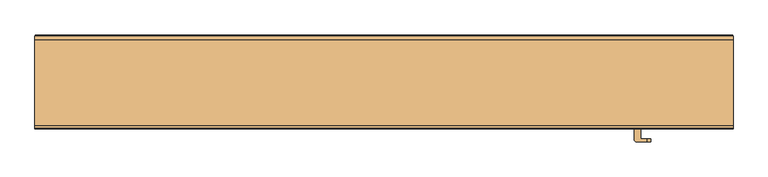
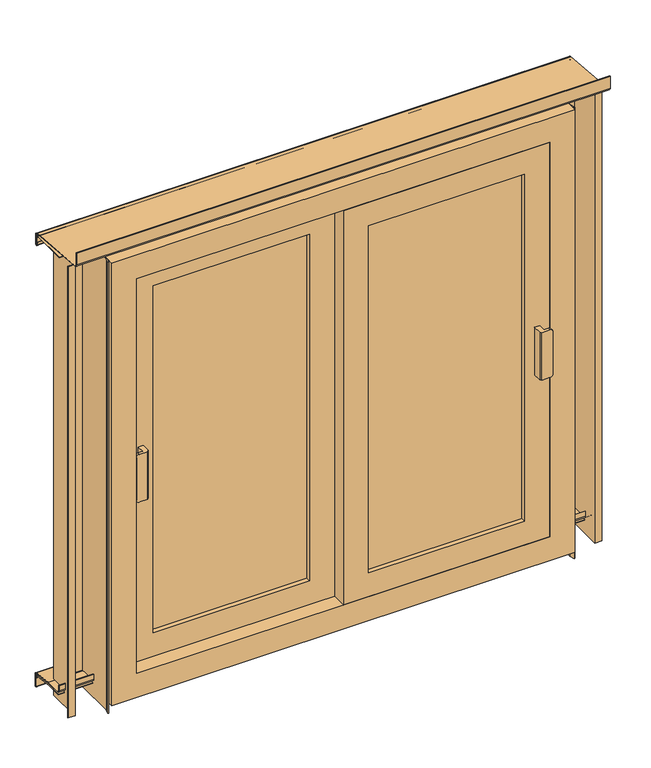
"""IFC4 building model written with IfcOpenShell, lengths in millimetres: door geometry, Fenetre pour Tenda Horizontal : Fenetre pour Tenda H."""

import ifcopenshell
import ifcopenshell.guid

model = None  # the IFC model being written
_history = None  # IfcOwnerHistory: only IFC2X3 demands one
_inside = {}  # id of a spatial element -> (the spatial element, [elements in it])
_under = {}  # id of a project, library or spatial element -> (it, [spatial elements below it])
_declared = {}  # id of a project -> (the project, [libraries it declares])
_typed = {}  # id of a type object -> (the type object, [elements of that type])
_made_of = {}  # id of a material, layer set ... -> (it, [elements and type objects made of it])


def new_model(schema):
    """Start an empty IFC model of exactly this schema.

    Asked for "IFC4X3", IfcOpenShell would pick the latest addendum, in which some entities
    have other attributes; the version numbers below select the first issue.
    IFC2X3 requires an IfcOwnerHistory on every rooted entity: one is made here for all.
    """
    global model, _history
    if schema == "IFC4X3":
        model = ifcopenshell.file(schema_version=(4, 3, 0, 0))
    else:
        model = ifcopenshell.file(schema=schema)
    _inside.clear()
    _under.clear()
    _declared.clear()
    _typed.clear()
    _made_of.clear()
    _history = None
    if model.schema == "IFC2X3":
        org = make("IfcOrganization", Name="unknown")
        user = make(
            "IfcPersonAndOrganization",
            ThePerson=make("IfcPerson", FamilyName="unknown"),
            TheOrganization=org,
        )
        app = make(
            "IfcApplication",
            ApplicationDeveloper=org,
            Version="unknown",
            ApplicationFullName="unknown",
            ApplicationIdentifier="unknown",
        )
        _history = make(
            "IfcOwnerHistory",
            OwningUser=user,
            OwningApplication=app,
            ChangeAction="ADDED",
            CreationDate=0,
        )
    return model


def make(cls, **values):
    """One entity of the class cls with the attributes given. An attribute that is None is left unset."""
    return model.create_entity(
        cls, **{name: value for name, value in values.items() if value is not None}
    )


def rooted(cls, **values):
    """An entity with a GlobalId (a new one), such as an element, a storey or a relation."""
    return make(cls, GlobalId=ifcopenshell.guid.new(), OwnerHistory=_history, **values)


def si_unit(unit_type, name, prefix=None):
    """IfcSIUnit, for example si_unit("LENGTHUNIT", "METRE", prefix="MILLI")."""
    return make("IfcSIUnit", UnitType=unit_type, Prefix=prefix, Name=name)


def assignment(units):
    """IfcUnitAssignment: the units of a project."""
    return None if units is None else make("IfcUnitAssignment", Units=units)


def point(xyz):
    """IfcCartesianPoint."""
    return None if xyz is None else make("IfcCartesianPoint", Coordinates=xyz)


def direction(xyz):
    """IfcDirection."""
    return None if xyz is None else make("IfcDirection", DirectionRatios=xyz)


def frame(location, z_axis=None, x_axis=None):
    """IfcAxis2Placement3D, a coordinate frame: its origin and axes. An axis left out is left unset."""
    return make(
        "IfcAxis2Placement3D",
        Location=point(location),
        Axis=direction(z_axis),
        RefDirection=direction(x_axis),
    )


def frame_2d(location, x_axis=None):
    """IfcAxis2Placement2D, a coordinate frame in the plane: its origin and x axis."""
    return make(
        "IfcAxis2Placement2D", Location=point(location), RefDirection=direction(x_axis)
    )


def origin():
    """The frame at (0, 0, 0) with its axes left unset."""
    return frame((0.0, 0.0, 0.0))


def place(relative_to, where):
    """IfcLocalPlacement: puts the frame where relative to a parent placement (None: the world)."""
    return make(
        "IfcLocalPlacement", PlacementRelTo=relative_to, RelativePlacement=where
    )


def context(
    kind, dimensions, precision=None, world=None, true_north=None, identifier=None
):
    """IfcGeometricRepresentationContext, for example the 3D "Model" context."""
    return make(
        "IfcGeometricRepresentationContext",
        ContextIdentifier=identifier,
        ContextType=kind,
        CoordinateSpaceDimension=dimensions,
        Precision=precision,
        WorldCoordinateSystem=world,
        TrueNorth=true_north,
    )


def project(units=None, contexts=None):
    """IfcProject with its units and contexts."""
    return rooted(
        "IfcProject",
        Name="project",
        RepresentationContexts=contexts,
        UnitsInContext=assignment(units),
    )


def spatial(cls, under=None, at=None, **own):
    """A site, building, storey or space (cls), placed at a placement, below another one or the project."""
    s = rooted(cls, ObjectPlacement=at, **own)
    if under is not None:
        _under.setdefault(under.id(), (under, []))[1].append(s)
    return s


def polyline(points):
    """IfcPolyline through the points."""
    return make("IfcPolyline", Points=[point(p) for p in points])


def circle_curve(where, radius):
    """IfcCircle in the frame where."""
    return make("IfcCircle", Position=where, Radius=radius)


def trimmed(basis, trim1, trim2, sense, master):
    """IfcTrimmedCurve: the piece of a basis curve between two trims."""
    return make(
        "IfcTrimmedCurve",
        BasisCurve=basis,
        Trim1=trim1,
        Trim2=trim2,
        SenseAgreement=sense,
        MasterRepresentation=master,
    )


def segment(curve, same_sense, transition):
    """IfcCompositeCurveSegment."""
    return make(
        "IfcCompositeCurveSegment",
        Transition=transition,
        SameSense=same_sense,
        ParentCurve=curve,
    )


def composite_curve(segments, self_intersect=None):
    """IfcCompositeCurve: segments joined end to end."""
    return make("IfcCompositeCurve", Segments=segments, SelfIntersect=self_intersect)


def outline(outer, holes=None, kind="AREA"):
    """IfcArbitraryClosedProfileDef: a profile drawn as a closed curve; with holes, ...WithVoids."""
    if holes is None:
        return make("IfcArbitraryClosedProfileDef", ProfileType=kind, OuterCurve=outer)
    return make(
        "IfcArbitraryProfileDefWithVoids",
        ProfileType=kind,
        OuterCurve=outer,
        InnerCurves=holes,
    )


def extrude(swept, where, along, depth):
    """IfcExtrudedAreaSolid: the profile swept, set in the frame where, extruded along a direction by depth."""
    return make(
        "IfcExtrudedAreaSolid",
        SweptArea=swept,
        Position=where,
        ExtrudedDirection=direction(along),
        Depth=depth,
    )


def faces_of(points, faces, orient=None, outer=None):
    """IfcFace entities. A face is a list of loops; a loop is a list of indices into points, from 0.

    orient and outer hold one flag for each loop. By default every Orientation is true, the
    first loop of a face is its IfcFaceOuterBound and the others are IfcFaceBound.
    """
    made = []
    for i, loops in enumerate(faces):
        bounds = []
        for j, loop in enumerate(loops):
            is_outer = j == 0 if outer is None else outer[i][j]
            bounds.append(
                make(
                    "IfcFaceOuterBound" if is_outer else "IfcFaceBound",
                    Bound=make("IfcPolyLoop", Polygon=[points[k] for k in loop]),
                    Orientation=True if orient is None else orient[i][j],
                )
            )
        made.append(make("IfcFace", Bounds=bounds))
    return made


def faceted_brep(points, faces, orient=None, outer=None, voids=None):
    """IfcFacetedBrep: a solid bounded by flat faces; with voids (closed shells), ...WithVoids."""
    shared = [point(p) for p in points]
    hull = make("IfcClosedShell", CfsFaces=faces_of(shared, faces, orient, outer))
    if voids is None:
        return make("IfcFacetedBrep", Outer=hull)
    return make(
        "IfcFacetedBrepWithVoids",
        Outer=hull,
        Voids=[
            make(cls, CfsFaces=faces_of(shared, fs, o, b)) for cls, fs, o, b in voids
        ],
    )


def shape(context_of_items, identifier, shape_type, items):
    """IfcShapeRepresentation: the items that make up one representation, for example the "Body"."""
    return make(
        "IfcShapeRepresentation",
        ContextOfItems=context_of_items,
        RepresentationIdentifier=identifier,
        RepresentationType=shape_type,
        Items=items,
    )


def source(mapping_origin, context_of_items, identifier, shape_type, items):
    """IfcRepresentationMap: a shape defined once, which mapped items show again and again."""
    return make(
        "IfcRepresentationMap",
        MappingOrigin=mapping_origin,
        MappedRepresentation=shape(context_of_items, identifier, shape_type, items),
    )


def transform(
    local_origin,
    x_axis=None,
    y_axis=None,
    z_axis=None,
    scale=None,
    scale2=None,
    scale3=None,
    uniform=True,
):
    """IfcCartesianTransformationOperator3D, or its non-uniform kind. x_axis, y_axis, z_axis: its Axis1, 2, 3."""
    if uniform:
        return make(
            "IfcCartesianTransformationOperator3D",
            Axis1=direction(x_axis),
            Axis2=direction(y_axis),
            LocalOrigin=point(local_origin),
            Scale=scale,
            Axis3=direction(z_axis),
        )
    return make(
        "IfcCartesianTransformationOperator3DnonUniform",
        Axis1=direction(x_axis),
        Axis2=direction(y_axis),
        LocalOrigin=point(local_origin),
        Scale=scale,
        Axis3=direction(z_axis),
        Scale2=scale2,
        Scale3=scale3,
    )


def mapped(mapping_source, mapping_target):
    """IfcMappedItem: shows the shape of a source again, moved by a transform."""
    return make(
        "IfcMappedItem", MappingSource=mapping_source, MappingTarget=mapping_target
    )


def made_of(thing, what):
    """Note that an element or type object is made of a material, layer set ...; save() writes the relation."""
    if what is not None:
        _made_of.setdefault(what.id(), (what, []))[1].append(thing)
    return thing


def element(
    cls,
    number,
    at=None,
    inside=None,
    cuts=None,
    type_object=None,
    material=None,
    context=None,
    identifier="Body",
    shape_type=None,
    held_by="IfcProductDefinitionShape",
    body=None,
    shapes=None,
    **own,
):
    """One element of the class cls, such as IfcWall. Its Tag is "e" and its number.

    at: its placement. inside: the storey or other place that contains it. cuts: it is an
    opening in that element (IfcRelVoidsElement). A single representation is given by context,
    identifier, shape_type and body (its items); several are given by shapes. held_by: the class
    of the entity that holds the representations. save() writes the other relations.
    """
    e = rooted(cls, Tag="e%d" % number, ObjectPlacement=at, **own)
    if body is not None:
        shapes = [shape(context, identifier, shape_type, body)]
    if shapes is not None:
        e.Representation = make(held_by, Representations=shapes)
    if inside is not None:
        _inside.setdefault(inside.id(), (inside, []))[1].append(e)
    if cuts is not None:
        rooted(
            "IfcRelVoidsElement", RelatingBuildingElement=cuts, RelatedOpeningElement=e
        )
    if type_object is not None:
        _typed.setdefault(type_object.id(), (type_object, []))[1].append(e)
    return made_of(e, material)


def aggregate(whole, parts):
    """IfcRelAggregates: a whole, such as a stair, and the parts it consists of."""
    return rooted("IfcRelAggregates", RelatingObject=whole, RelatedObjects=parts)


def save(model, path):
    """Write the relations noted so far, then the file.

    IfcRelAggregates (storeys below a building ...), IfcRelContainedInSpatialStructure (elements
    in a storey), IfcRelDefinesByType, IfcRelAssociatesMaterial and IfcRelDeclares: one each for
    every whole, place, type object, material and project.
    """
    for whole, parts in _under.values():
        aggregate(whole, parts)
    for where, things in _inside.values():
        rooted(
            "IfcRelContainedInSpatialStructure",
            RelatedElements=things,
            RelatingStructure=where,
        )
    for kind, things in _typed.values():
        rooted("IfcRelDefinesByType", RelatedObjects=things, RelatingType=kind)
    for what, things in _made_of.values():
        rooted("IfcRelAssociatesMaterial", RelatedObjects=things, RelatingMaterial=what)
    for by, libraries in _declared.values():
        rooted("IfcRelDeclares", RelatingContext=by, RelatedDefinitions=libraries)
    model.write(path)


def plane_surface(at):
    """IfcPlane: the flat surface through the origin of the frame at, square to its z axis."""
    return make("IfcPlane", Position=at)


def cylinder_surface(at, radius):
    """IfcCylindricalSurface: all points at the distance radius from the z axis of the frame at."""
    return make("IfcCylindricalSurface", Position=at, Radius=radius)


def advanced_brep(points, edges, surfaces, faces):
    """IfcAdvancedBrep: a solid bounded by faces that lie on surfaces and meet in shared edges.

    An edge is (start, end): straight between two places in points (the first is 0);
    or (start, end, curve); or (start, end, curve, False) where it runs against its curve.
    A face is (place in surfaces, loops), or (place, loops, False) where it looks against
    its surface's normal. A loop lists edges by number (the first is 1), with a minus sign
    where the edge is run from its end to its start. The first loop is the outer one.
    """
    corners = [point(p) for p in points]
    vertices = [make("IfcVertexPoint", VertexGeometry=c) for c in corners]
    made = []
    for start, end, *more in edges:
        made.append(
            make(
                "IfcEdgeCurve",
                EdgeStart=vertices[start],
                EdgeEnd=vertices[end],
                EdgeGeometry=more[0] if more else make("IfcPolyline", Points=[corners[start], corners[end]]),
                SameSense=more[1] if len(more) > 1 else True,
            )
        )
    hull = []
    for where, loops, *sense in faces:
        bounds = []
        for j, loop in enumerate(loops):
            ring = [make("IfcOrientedEdge", EdgeElement=made[abs(k) - 1], Orientation=k > 0) for k in loop]
            bounds.append(
                make(
                    "IfcFaceOuterBound" if j == 0 else "IfcFaceBound",
                    Bound=make("IfcEdgeLoop", EdgeList=ring),
                    Orientation=True,
                )
            )
        hull.append(make("IfcAdvancedFace", Bounds=bounds, FaceSurface=surfaces[where], SameSense=sense[0] if sense else True))
    return make("IfcAdvancedBrep", Outer=make("IfcClosedShell", CfsFaces=hull))


def door_0b4cebd2(model_context):
    return source(origin(), model_context, "Body", "SolidModel", [
        advanced_brep(
        [(380.0, -60.7721751, 400.0), (380.0, -43.2408569, 400.0), (390.0, -43.2408569, 400.0), (390.0, -58.2408569, 400.0), (399.0477825, -58.2408569, 400.0), (399.0477825, -63.2408569, 400.0), (382.4686818, -63.2408569, 400.0), (380.0, -60.7721751, 500.0), (382.4686818, -63.2408569, 500.0), (399.0477825, -63.2408569, 500.0), (399.0477825, -58.2408569, 500.0), (390.0, -58.2408569, 500.0), (390.0, -43.2408569, 500.0), (380.0, -43.2408569, 500.0), (405.0, -58.2408569, 494.0477825), (405.0, -58.2408569, 405.9522175), (405.0, -63.2408569, 494.0477825), (405.0, -63.2408569, 405.9522175)],
        [
            (0, 1),
            (1, 2),
            (2, 3),
            (3, 4),
            (4, 5),
            (5, 6),
            (6, 0),
            (7, 8),
            (8, 9),
            (9, 10),
            (10, 11),
            (11, 12),
            (12, 13),
            (13, 7),
            (0, 7),
            (13, 1),
            (12, 2),
            (11, 3),
            (10, 14, circle_curve(frame((399.0477825, -58.2408569, 494.0477825), z_axis=(0.0, 1.0, 0.0), x_axis=(1.0, 0.0, 0.0)), 5.9522175)),
            (14, 15),
            (15, 4, circle_curve(frame((399.0477825, -58.2408569, 405.9522175), z_axis=(0.0, 1.0, 0.0), x_axis=(1.0, 0.0, 0.0)), 5.9522175)),
            (14, 16),
            (16, 17),
            (17, 15),
            (8, 6),
            (5, 17, circle_curve(frame((399.0477825, -63.2408569, 405.9522175), z_axis=(0.0, -1.0, 0.0), x_axis=(1.0, 0.0, 0.0)), 5.9522175)),
            (16, 9, circle_curve(frame((399.0477825, -63.2408569, 494.0477825), z_axis=(0.0, -1.0, 0.0), x_axis=(1.0, 0.0, 0.0)), 5.9522175)),
        ],
        [
            plane_surface(frame((380.0, -43.2408569, 400.0), z_axis=(0.0, 0.0, -1.0), x_axis=(0.0, 1.0, 0.0))),
            plane_surface(frame((380.0, -43.2408569, 500.0), z_axis=(0.0, 0.0, 1.0), x_axis=(0.0, -1.0, 0.0))),
            plane_surface(frame((380.0, -60.7721751, 400.0), z_axis=(-1.0, 0.0, 0.0), x_axis=(0.0, 0.0, 1.0))),
            plane_surface(frame((380.0, -43.2408569, 400.0), z_axis=(0.0, 1.0, 0.0), x_axis=(0.0, 0.0, 1.0))),
            plane_surface(frame((390.0, -43.2408569, 400.0), z_axis=(1.0, 0.0, 0.0), x_axis=(0.0, 0.0, 1.0))),
            plane_surface(frame((390.0, -58.2408569, 400.0), z_axis=(0.0, 1.0, 0.0), x_axis=(0.0, 0.0, 1.0))),
            plane_surface(frame((405.0, -58.2408569, 400.0), z_axis=(1.0, 0.0, 0.0), x_axis=(0.0, 0.0, 1.0))),
            plane_surface(frame((405.0, -63.2408569, 400.0), z_axis=(0.0, -1.0, 0.0), x_axis=(0.0, 0.0, 1.0))),
            plane_surface(frame((382.4686818, -63.2408569, 400.0), z_axis=(-0.7071067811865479, -0.7071067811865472, 0.0), x_axis=(0.0, 0.0, 1.0))),
            cylinder_surface(frame((399.0477825, -58.2408569, 494.0477825), z_axis=(0.0, 1.0, 0.0), x_axis=(1.0, 0.0, 0.0)), 5.9522175),
            cylinder_surface(frame((399.0477825, -58.2408569, 405.9522175), z_axis=(0.0, 1.0, 0.0), x_axis=(1.0, 0.0, 0.0)), 5.9522175),
        ],
        [
            (0, [[1, 2, 3, 4, 5, 6, 7]]),
            (1, [[8, 9, 10, 11, 12, 13, 14]]),
            (2, [[-1, 15, -14, 16]]),
            (3, [[-2, -16, -13, 17]]),
            (4, [[-3, -17, -12, 18]]),
            (5, [[-18, -11, 19, 20, 21, -4]]),
            (6, [[-20, 22, 23, 24]]),
            (7, [[25, -6, 26, -23, 27, -9]]),
            (8, [[-7, -25, -8, -15]]),
            (9, [[-10, -27, -22, -19]]),
            (10, [[-5, -21, -24, -26]]),
        ],
    ),
        advanced_brep(
        [(-380.0, -30.7721751, 400.0), (-382.4686818, -33.2408569, 400.0), (-399.0477825, -33.2408569, 400.0), (-399.0477825, -28.2408569, 400.0), (-390.0, -28.2408569, 400.0), (-390.0, -13.2408569, 400.0), (-380.0, -13.2408569, 400.0), (-380.0, -30.7721751, 500.0), (-380.0, -13.2408569, 500.0), (-390.0, -13.2408569, 500.0), (-390.0, -28.2408569, 500.0), (-399.0477825, -28.2408569, 500.0), (-399.0477825, -33.2408569, 500.0), (-382.4686818, -33.2408569, 500.0), (-405.0, -28.2408569, 405.9522175), (-405.0, -28.2408569, 494.0477825), (-405.0, -33.2408569, 405.9522175), (-405.0, -33.2408569, 494.0477825)],
        [
            (0, 1),
            (1, 2),
            (2, 3),
            (3, 4),
            (4, 5),
            (5, 6),
            (6, 0),
            (7, 8),
            (8, 9),
            (9, 10),
            (10, 11),
            (11, 12),
            (12, 13),
            (13, 7),
            (6, 8),
            (7, 0),
            (5, 9),
            (4, 10),
            (3, 14, circle_curve(frame((-399.0477825, -28.2408569, 405.9522175), z_axis=(0.0, 1.0, 0.0), x_axis=(-1.0, 0.0, 0.0)), 5.9522175)),
            (14, 15),
            (15, 11, circle_curve(frame((-399.0477825, -28.2408569, 494.0477825), z_axis=(0.0, 1.0, 0.0), x_axis=(-1.0, 0.0, 0.0)), 5.9522175)),
            (14, 16),
            (16, 17),
            (17, 15),
            (12, 17, circle_curve(frame((-399.0477825, -33.2408569, 494.0477825), z_axis=(0.0, -1.0, 0.0), x_axis=(-1.0, 0.0, 0.0)), 5.9522175)),
            (16, 2, circle_curve(frame((-399.0477825, -33.2408569, 405.9522175), z_axis=(0.0, -1.0, 0.0), x_axis=(-1.0, 0.0, 0.0)), 5.9522175)),
            (1, 13),
        ],
        [
            plane_surface(frame((-380.0, -13.2408569, 400.0), z_axis=(0.0, 0.0, -1.0), x_axis=(0.0, 1.0, 0.0))),
            plane_surface(frame((-380.0, -13.2408569, 500.0), z_axis=(0.0, 0.0, 1.0), x_axis=(0.0, -1.0, 0.0))),
            plane_surface(frame((-380.0, -30.7721751, 400.0), z_axis=(1.0, 0.0, 0.0), x_axis=(0.0, 0.0, 1.0))),
            plane_surface(frame((-380.0, -13.2408569, 400.0), z_axis=(0.0, 1.0, 0.0), x_axis=(0.0, 0.0, 1.0))),
            plane_surface(frame((-390.0, -13.2408569, 400.0), z_axis=(-1.0, 0.0, 0.0), x_axis=(0.0, 0.0, 1.0))),
            plane_surface(frame((-390.0, -28.2408569, 400.0), z_axis=(0.0, 1.0, 0.0), x_axis=(0.0, 0.0, 1.0))),
            plane_surface(frame((-405.0, -28.2408569, 400.0), z_axis=(-1.0, 0.0, 0.0), x_axis=(0.0, 0.0, 1.0))),
            plane_surface(frame((-405.0, -33.2408569, 400.0), z_axis=(0.0, -1.0, 0.0), x_axis=(0.0, 0.0, 1.0))),
            plane_surface(frame((-382.4686818, -33.2408569, 400.0), z_axis=(0.7071067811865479, -0.7071067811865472, 0.0), x_axis=(0.0, 0.0, 1.0))),
            cylinder_surface(frame((-399.0477825, -28.2408569, 494.0477825), z_axis=(0.0, 1.0, 0.0), x_axis=(-1.0, 0.0, 0.0)), 5.9522175),
            cylinder_surface(frame((-399.0477825, -28.2408569, 405.9522175), z_axis=(0.0, 1.0, 0.0), x_axis=(-1.0, 0.0, 0.0)), 5.9522175),
        ],
        [
            (0, [[1, 2, 3, 4, 5, 6, 7]]),
            (1, [[8, 9, 10, 11, 12, 13, 14]]),
            (2, [[15, -8, 16, -7]]),
            (3, [[17, -9, -15, -6]]),
            (4, [[18, -10, -17, -5]]),
            (5, [[-4, 19, 20, 21, -11, -18]]),
            (6, [[22, 23, 24, -20]]),
            (7, [[-13, 25, -23, 26, -2, 27]]),
            (8, [[-16, -14, -27, -1]]),
            (9, [[-21, -24, -25, -12]]),
            (10, [[-26, -22, -19, -3]]),
        ],
    ),
        faceted_brep([(-400.0, 16.7591431, 868.0), (-400.0, 26.7591431, 868.0), (400.0, 26.7591431, 868.0), (400.0, 16.7591431, 868.0), (-410.0, -43.2408569, 878.0), (-410.0, 16.7591431, 878.0), (410.0, 16.7591431, 878.0), (410.0, -43.2408569, 878.0), (-460.0, 26.7591431, 928.0), (-460.0, -43.2408569, 928.0), (460.0, -43.2408569, 928.0), (460.0, 26.7591431, 928.0), (400.0, 26.7591431, 60.0), (400.0, 16.7591431, 60.0), (410.0, 16.7591431, 50.0), (410.0, -43.2408569, 50.0), (460.0, -43.2408569, 0.0), (460.0, 26.7591431, 0.0), (-400.0, 26.7591431, 60.0), (-400.0, 16.7591431, 60.0), (-410.0, 16.7591431, 50.0), (-410.0, -43.2408569, 50.0), (-460.0, -43.2408569, 0.0), (-460.0, 26.7591431, 0.0)], [[[0, 1, 2, 3]], [[4, 5, 6, 7]], [[8, 9, 10, 11]], [[3, 2, 12, 13]], [[7, 6, 14, 15]], [[11, 10, 16, 17]], [[13, 12, 18, 19]], [[15, 14, 20, 21]], [[17, 16, 22, 23]], [[11, 17, 23, 8], [1, 18, 12, 2]], [[19, 18, 1, 0]], [[5, 20, 14, 6], [3, 13, 19, 0]], [[21, 20, 5, 4]], [[9, 22, 16, 10], [7, 15, 21, 4]], [[23, 22, 9, 8]]]),
        extrude(outline(polyline([(878.0, -410.0), (50.0, -410.0), (50.0, 0.0), (878.0, 0.0), (878.0, -410.0)]), holes=[polyline([(828.0, -50.0), (100.0, -50.0), (100.0, -360.0), (828.0, -360.0), (828.0, -50.0)])]), frame((0.0, -13.2408569, 0.0), z_axis=(0.0, 1.0, 0.0), x_axis=(0.0, 0.0, 1.0)), (0.0, 0.0, 1.0), 30.0),
        extrude(outline(polyline([(-360.0, 7.7591431), (-50.0, 7.7591431), (-50.0, -4.2408569), (-360.0, -4.2408569), (-360.0, 7.7591431)])), frame((0.0, 0.0, 100.0), z_axis=(0.0, 0.0, 1.0), x_axis=(1.0, 0.0, 0.0)), (0.0, 0.0, 1.0), 728.0),
        extrude(outline(polyline([(50.0, 410.0), (878.0, 410.0), (878.0, 0.0), (50.0, 0.0), (50.0, 410.0)]), holes=[polyline([(100.0, 50.0), (828.0, 50.0), (828.0, 360.0), (100.0, 360.0), (100.0, 50.0)])]), frame((0.0, -43.2408569, 0.0), z_axis=(0.0, 1.0, 0.0), x_axis=(0.0, 0.0, 1.0)), (0.0, 0.0, 1.0), 30.0),
        extrude(outline(polyline([(50.0, -22.2408569), (360.0, -22.2408569), (360.0, -34.2408569), (50.0, -34.2408569), (50.0, -22.2408569)])), frame((0.0, 0.0, 100.0), z_axis=(0.0, 0.0, 1.0), x_axis=(1.0, 0.0, 0.0)), (0.0, 0.0, 1.0), 728.0),
        extrude(outline(composite_curve([segment(trimmed(circle_curve(frame_2d((91.742772, 927.5442288)), 5.75), [point((92.2439175, 933.2723483))], [point((97.492772, 927.5442288))], False, "CARTESIAN"), True, "CONTINUOUS"), segment(polyline([(97.492772, 927.5442288), (97.492772, 910.0809)]), True, "CONTINUOUS"), segment(trimmed(circle_curve(frame_2d((94.492772, 910.0809)), 3.0), [point((97.492772, 910.0809))], [point((91.492772, 910.0809))], False, "CARTESIAN"), True, "CONTINUOUS"), segment(polyline([(91.492772, 910.0809), (91.492772, 915.0809), (92.492772, 915.0809), (92.492772, 910.0809)]), True, "CONTINUOUS"), segment(trimmed(circle_curve(frame_2d((94.492772, 910.0809)), 2.0), [point((92.492772, 910.0809))], [point((96.492772, 910.0809))], True, "CARTESIAN"), True, "CONTINUOUS"), segment(polyline([(96.492772, 910.0809), (96.492772, 927.315146)]), True, "CONTINUOUS"), segment(trimmed(circle_curve(frame_2d((91.492772, 927.315146)), 5.0), [point((96.492772, 927.315146))], [point((91.9285507, 932.2961195))], True, "CARTESIAN"), True, "CONTINUOUS"), segment(polyline([(91.9285507, 932.2961195), (-37.9920024, 943.6626951)]), True, "CONTINUOUS"), segment(trimmed(circle_curve(frame_2d((-37.4908569, 949.3908146)), 5.75), [point((-37.9920024, 943.6626951))], [point((-43.2408569, 949.3908146))], False, "CARTESIAN"), True, "CONTINUOUS"), segment(polyline([(-43.2408569, 949.3908146), (-43.2408569, 974.1633549), (-42.2408569, 974.1633549), (-42.2408569, 949.6198974)]), True, "CONTINUOUS"), segment(trimmed(circle_curve(frame_2d((-37.2408569, 949.6198974)), 5.0), [point((-42.2408569, 949.6198974))], [point((-37.6766356, 944.6389239))], True, "CARTESIAN"), True, "CONTINUOUS"), segment(polyline([(-37.6766356, 944.6389239), (92.2439175, 933.2723483)]), True, "CONTINUOUS")], self_intersect=False)), frame((-530.0, 0.0, 0.0), z_axis=(1.0, 0.0, 0.0), x_axis=(0.0, 1.0, 0.0)), (0.0, 0.0, 1.0), 1060.0),
        extrude(outline(composite_curve([segment(trimmed(circle_curve(frame_2d((89.242772, 923.25)), 5.75), [point((89.242772, 929.0))], [point((94.992772, 923.25))], False, "CARTESIAN"), True, "CONTINUOUS"), segment(polyline([(94.992772, 923.25), (94.992772, 913.0), (93.992772, 913.0), (93.992772, 923.0)]), True, "CONTINUOUS"), segment(trimmed(circle_curve(frame_2d((88.992772, 923.0)), 5.0), [point((93.992772, 923.0))], [point((88.992772, 928.0))], True, "CARTESIAN"), True, "CONTINUOUS"), segment(polyline([(88.992772, 928.0), (16.7591431, 928.0), (16.7591431, 929.0), (89.242772, 929.0)]), True, "CONTINUOUS")], self_intersect=False)), frame((-530.0, 0.0, 0.0), z_axis=(1.0, 0.0, 0.0), x_axis=(0.0, 1.0, 0.0)), (0.0, 0.0, 1.0), 1060.0),
        extrude(outline(composite_curve([segment(trimmed(circle_curve(frame_2d((22.5091431, 19.5993885)), 5.75), [point((22.5091431, 13.8493885))], [point((16.7591431, 19.5993885))], False, "CARTESIAN"), True, "CONTINUOUS"), segment(polyline([(16.7591431, 19.5993885), (16.7591431, 29.7657197), (17.7591431, 29.7657197), (17.7591431, 19.7657197)]), True, "CONTINUOUS"), segment(trimmed(circle_curve(frame_2d((22.7591431, 19.7657197)), 5.0), [point((17.7591431, 19.7657197))], [point((22.7591431, 14.7657197))], True, "CARTESIAN"), True, "CONTINUOUS"), segment(polyline([(22.7591431, 14.7657197), (53.6757766, 14.7657197), (94.8343667, 9.6057488)]), True, "CONTINUOUS"), segment(trimmed(circle_curve(frame_2d((94.1190997, 3.9004098)), 5.75), [point((94.8343667, 9.6057488))], [point((99.8690997, 3.9004098))], False, "CARTESIAN"), True, "CONTINUOUS"), segment(polyline([(99.8690997, 3.9004098), (99.8690997, -18.5280564)]), True, "CONTINUOUS"), segment(trimmed(circle_curve(frame_2d((97.3690997, -18.5254444)), 2.5000014), [point((99.8690997, -18.5280564))], [point((94.8690997, -18.5280564))], False, "CARTESIAN"), True, "CONTINUOUS"), segment(polyline([(94.8690997, -18.5280564), (94.8690997, -1.0254457), (95.8690997, -1.0254457), (95.8690997, -18.5280564)]), True, "CONTINUOUS"), segment(trimmed(circle_curve(frame_2d((97.3690997, -18.5571543)), 1.5002822), [point((95.8690997, -18.5280564))], [point((98.8690997, -18.5280564))], True, "CARTESIAN"), True, "CONTINUOUS"), segment(polyline([(98.8690997, -18.5280564), (98.8690997, 3.6459235)]), True, "CONTINUOUS"), segment(trimmed(circle_curve(frame_2d((93.8690997, 3.6459235)), 5.0), [point((98.8690997, 3.6459235))], [point((94.491071, 8.6070879))], True, "CARTESIAN"), True, "CONTINUOUS"), segment(polyline([(94.491071, 8.6070879), (52.6757766, 13.8493885), (22.5091431, 13.8493885)]), True, "CONTINUOUS")], self_intersect=False)), frame((-529.7838213, 0.0, 0.0), z_axis=(1.0, 0.0, 0.0), x_axis=(0.0, 1.0, 0.0)), (0.0, 0.0, 1.0), 1059.5676427),
        extrude(outline(composite_curve([segment(trimmed(circle_curve(frame_2d((92.2656457, -0.5602154)), 5.75), [point((92.9885508, 5.1441609))], [point((98.0156457, -0.5602154))], False, "CARTESIAN"), True, "CONTINUOUS"), segment(polyline([(98.0156457, -0.5602154), (98.0156457, -18.7572246), (97.0156457, -18.7572246), (97.0156457, -0.8155942)]), True, "CONTINUOUS"), segment(trimmed(circle_curve(frame_2d((92.0156457, -0.8155942)), 5.0), [point((97.0156457, -0.8155942))], [point((92.6442588, 4.144733))], True, "CARTESIAN"), True, "CONTINUOUS"), segment(polyline([(92.6442588, 4.144733), (52.4234998, 9.2418357), (20.0166386, 9.2418357), (20.0166386, 10.1581669), (53.4234998, 10.1581669), (92.9885508, 5.1441609)]), True, "CONTINUOUS")], self_intersect=False)), frame((-529.7838213, 0.0, 0.0), z_axis=(1.0, 0.0, 0.0), x_axis=(0.0, 1.0, 0.0)), (0.0, 0.0, 1.0), 1059.5676427),
        extrude(outline(polyline([(460.0, -26.7620699), (460.0, 56.7591431), (517.2054608, 56.7591431), (517.2054608, -13.2408569), (529.7838213, -13.2408569), (530.0, -14.2578975), (516.2054608, -14.2578975), (516.2054608, 55.7591431), (461.0, 55.7591431), (461.0, -26.6304174), (463.6043568, -36.3500091), (462.6384309, -36.6088282), (460.0, -26.7620699)])), frame((0.0, 0.0, -18.5280564), z_axis=(0.0, 0.0, 1.0), x_axis=(1.0, 0.0, 0.0)), (0.0, 0.0, 1.0), 946.5280564),
        extrude(outline(polyline([(-460.0, -26.7620699), (-462.6384309, -36.6088282), (-463.6043568, -36.3500091), (-461.0, -26.6304174), (-461.0, 55.7591431), (-516.2054608, 55.7591431), (-516.2054608, -14.2578975), (-530.0, -14.2578975), (-529.7838213, -13.2408569), (-517.2054608, -13.2408569), (-517.2054608, 56.7591431), (-460.0, 56.7591431), (-460.0, -26.7620699)])), frame((0.0, 0.0, -18.7572246), z_axis=(0.0, 0.0, 1.0), x_axis=(1.0, 0.0, 0.0)), (0.0, 0.0, 1.0), 946.7572246),
    ])


if __name__ == "__main__":
    model = new_model("IFC4")
    model_context = context("Model", 3, world=origin())
    ifc_project = project(units=[si_unit("LENGTHUNIT", "METRE", prefix="MILLI")], contexts=[model_context])
    site = spatial("IfcSite", under=ifc_project)
    building = spatial("IfcBuilding", under=site)
    placement = place(None, origin())
    door_shape = door_0b4cebd2(model_context)
    element("IfcDoor", 1, ObjectType="Fenetre pour Tenda Horizontal : Fenetre pour Tenda H", at=placement, inside=building, context=model_context, shape_type="MappedRepresentation", body=[
        mapped(door_shape, transform((0.0, 0.0, 0.0), x_axis=(1.0, 0.0, 0.0), y_axis=(0.0, 1.0, 0.0), z_axis=(0.0, 0.0, 1.0))),
    ])
    save(model, "model.ifc")
